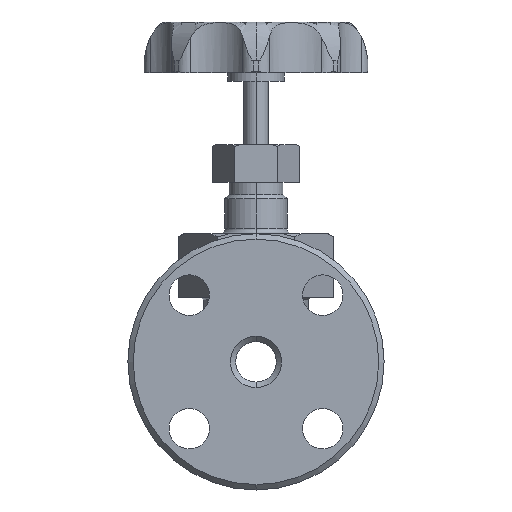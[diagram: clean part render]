
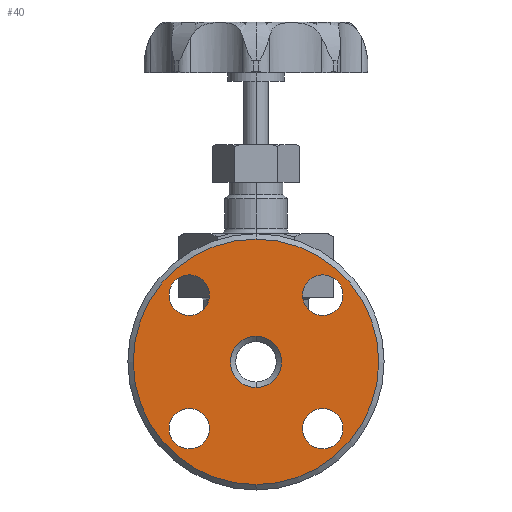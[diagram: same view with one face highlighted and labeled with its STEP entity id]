
A CAD part, left-side view. The second image highlights one B-rep face of the part: STEP entity #40.
In plain terms, the highlighted planar face has unit normal (-1, 0, 0).
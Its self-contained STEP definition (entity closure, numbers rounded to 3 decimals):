
#40=ADVANCED_FACE('',(#289,#290,#291,#292,#293,#294),#288,.F.);
#288=PLANE('',#2825);
#289=FACE_OUTER_BOUND('',#2826,.T.);
#290=FACE_BOUND('',#2827,.T.);
#291=FACE_BOUND('',#2828,.T.);
#292=FACE_BOUND('',#2829,.T.);
#293=FACE_BOUND('',#2830,.T.);
#294=FACE_BOUND('',#2831,.T.);
#2822=CARTESIAN_POINT('',(-54.,-88.808,55.5));
#2823=DIRECTION('',(1.,0.,0.));
#2824=DIRECTION('',(0.,0.,-1.));
#2825=AXIS2_PLACEMENT_3D('',#2822,#2823,#2824);
#2826=EDGE_LOOP('',(#4708,#4709));
#2827=EDGE_LOOP('',(#4710,#4711));
#2828=EDGE_LOOP('',(#4712,#4713));
#2829=EDGE_LOOP('',(#4714,#4715));
#2830=EDGE_LOOP('',(#4716,#4717));
#2831=EDGE_LOOP('',(#4718,#4719));
#4708=ORIENTED_EDGE('',*,*,#6136,.T.);
#4709=ORIENTED_EDGE('',*,*,#6137,.T.);
#4710=ORIENTED_EDGE('',*,*,#6138,.T.);
#4711=ORIENTED_EDGE('',*,*,#6139,.T.);
#4712=ORIENTED_EDGE('',*,*,#6140,.F.);
#4713=ORIENTED_EDGE('',*,*,#6141,.F.);
#4714=ORIENTED_EDGE('',*,*,#6142,.T.);
#4715=ORIENTED_EDGE('',*,*,#6143,.T.);
#4716=ORIENTED_EDGE('',*,*,#6144,.T.);
#4717=ORIENTED_EDGE('',*,*,#6145,.T.);
#4718=ORIENTED_EDGE('',*,*,#6146,.T.);
#4719=ORIENTED_EDGE('',*,*,#6147,.T.);
#6136=EDGE_CURVE('',#6850,#6851,#6852,.T.);
#6137=EDGE_CURVE('',#6851,#6850,#6858,.T.);
#6138=EDGE_CURVE('',#6864,#6865,#6866,.T.);
#6139=EDGE_CURVE('',#6865,#6864,#6872,.T.);
#6140=EDGE_CURVE('',#6878,#6879,#6880,.T.);
#6141=EDGE_CURVE('',#6879,#6878,#6886,.T.);
#6142=EDGE_CURVE('',#6892,#6893,#6894,.T.);
#6143=EDGE_CURVE('',#6893,#6892,#6900,.T.);
#6144=EDGE_CURVE('',#6906,#6907,#6908,.T.);
#6145=EDGE_CURVE('',#6907,#6906,#6914,.T.);
#6146=EDGE_CURVE('',#6920,#6921,#6922,.T.);
#6147=EDGE_CURVE('',#6921,#6920,#6928,.T.);
#6850=VERTEX_POINT('',#11598);
#6851=VERTEX_POINT('',#11599);
#6852=CIRCLE('',#11603,45.5);
#6858=CIRCLE('',#11607,45.5);
#6864=VERTEX_POINT('',#11608);
#6865=VERTEX_POINT('',#11609);
#6866=CIRCLE('',#11613,7.5);
#6872=CIRCLE('',#11617,7.5);
#6878=VERTEX_POINT('',#11618);
#6879=VERTEX_POINT('',#11619);
#6880=CIRCLE('',#11623,9.5);
#6886=CIRCLE('',#11627,9.5);
#6892=VERTEX_POINT('',#11628);
#6893=VERTEX_POINT('',#11629);
#6894=CIRCLE('',#11633,7.5);
#6900=CIRCLE('',#11637,7.5);
#6906=VERTEX_POINT('',#11638);
#6907=VERTEX_POINT('',#11639);
#6908=CIRCLE('',#11643,7.5);
#6914=CIRCLE('',#11647,7.5);
#6920=VERTEX_POINT('',#11648);
#6921=VERTEX_POINT('',#11649);
#6922=CIRCLE('',#11653,7.5);
#6928=CIRCLE('',#11657,7.5);
#11598=CARTESIAN_POINT('',(-54.,0.,45.5));
#11599=CARTESIAN_POINT('',(-54.,0.,-45.5));
#11600=CARTESIAN_POINT('',(-54.,0.,0.));
#11601=DIRECTION('',(-1.,0.,0.));
#11602=DIRECTION('',(0.,0.,1.));
#11603=AXIS2_PLACEMENT_3D('',#11600,#11601,#11602);
#11604=CARTESIAN_POINT('',(-54.,0.,0.));
#11605=DIRECTION('',(-1.,0.,0.));
#11606=DIRECTION('',(0.,0.,1.));
#11607=AXIS2_PLACEMENT_3D('',#11604,#11605,#11606);
#11608=CARTESIAN_POINT('',(-54.,-24.749,32.249));
#11609=CARTESIAN_POINT('',(-54.,-24.749,17.249));
#11610=CARTESIAN_POINT('',(-54.,-24.749,24.749));
#11611=DIRECTION('',(1.,0.,0.));
#11612=DIRECTION('',(0.,0.,1.));
#11613=AXIS2_PLACEMENT_3D('',#11610,#11611,#11612);
#11614=CARTESIAN_POINT('',(-54.,-24.749,24.749));
#11615=DIRECTION('',(1.,0.,0.));
#11616=DIRECTION('',(0.,0.,1.));
#11617=AXIS2_PLACEMENT_3D('',#11614,#11615,#11616);
#11618=CARTESIAN_POINT('',(-54.,0.,-9.5));
#11619=CARTESIAN_POINT('',(-54.,0.,9.5));
#11620=CARTESIAN_POINT('',(-54.,0.,0.));
#11621=DIRECTION('',(-1.,0.,0.));
#11622=DIRECTION('',(0.,0.,1.));
#11623=AXIS2_PLACEMENT_3D('',#11620,#11621,#11622);
#11624=CARTESIAN_POINT('',(-54.,0.,0.));
#11625=DIRECTION('',(-1.,0.,0.));
#11626=DIRECTION('',(0.,0.,1.));
#11627=AXIS2_PLACEMENT_3D('',#11624,#11625,#11626);
#11628=CARTESIAN_POINT('',(-54.,24.749,-17.249));
#11629=CARTESIAN_POINT('',(-54.,24.749,-32.249));
#11630=CARTESIAN_POINT('',(-54.,24.749,-24.749));
#11631=DIRECTION('',(1.,0.,0.));
#11632=DIRECTION('',(0.,0.,1.));
#11633=AXIS2_PLACEMENT_3D('',#11630,#11631,#11632);
#11634=CARTESIAN_POINT('',(-54.,24.749,-24.749));
#11635=DIRECTION('',(1.,0.,0.));
#11636=DIRECTION('',(0.,0.,1.));
#11637=AXIS2_PLACEMENT_3D('',#11634,#11635,#11636);
#11638=CARTESIAN_POINT('',(-54.,-24.749,-17.249));
#11639=CARTESIAN_POINT('',(-54.,-24.749,-32.249));
#11640=CARTESIAN_POINT('',(-54.,-24.749,-24.749));
#11641=DIRECTION('',(1.,0.,0.));
#11642=DIRECTION('',(0.,0.,1.));
#11643=AXIS2_PLACEMENT_3D('',#11640,#11641,#11642);
#11644=CARTESIAN_POINT('',(-54.,-24.749,-24.749));
#11645=DIRECTION('',(1.,0.,0.));
#11646=DIRECTION('',(0.,0.,1.));
#11647=AXIS2_PLACEMENT_3D('',#11644,#11645,#11646);
#11648=CARTESIAN_POINT('',(-54.,24.749,32.249));
#11649=CARTESIAN_POINT('',(-54.,24.749,17.249));
#11650=CARTESIAN_POINT('',(-54.,24.749,24.749));
#11651=DIRECTION('',(1.,0.,0.));
#11652=DIRECTION('',(0.,0.,1.));
#11653=AXIS2_PLACEMENT_3D('',#11650,#11651,#11652);
#11654=CARTESIAN_POINT('',(-54.,24.749,24.749));
#11655=DIRECTION('',(1.,0.,0.));
#11656=DIRECTION('',(0.,0.,1.));
#11657=AXIS2_PLACEMENT_3D('',#11654,#11655,#11656);
